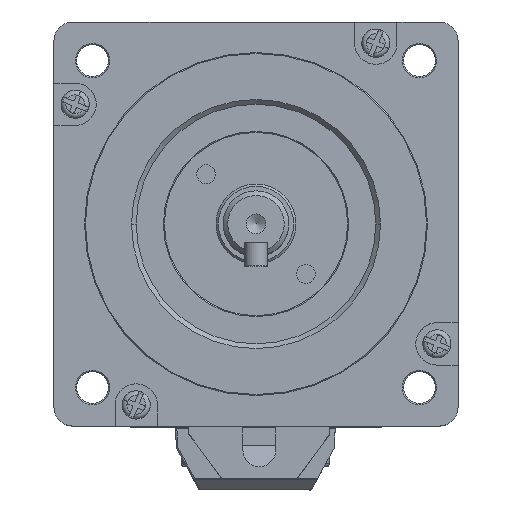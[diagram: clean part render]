
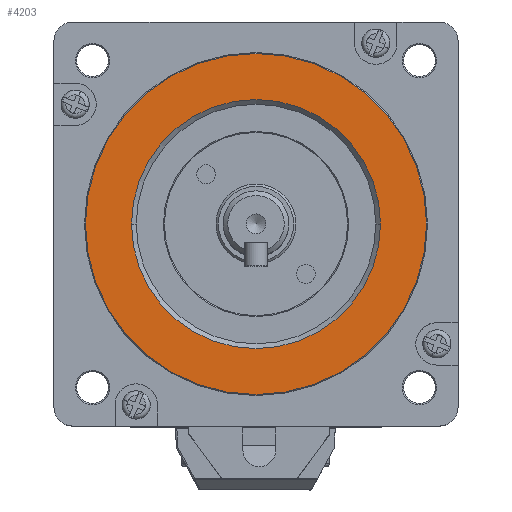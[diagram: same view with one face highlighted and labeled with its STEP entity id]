
A CAD part, top view. The second image highlights one B-rep face of the part: STEP entity #4203.
In plain terms, the highlighted planar face has unit normal (0, 0, 1).
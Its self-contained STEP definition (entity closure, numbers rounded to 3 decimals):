
#504=FACE_BOUND('',#6133,.T.);
#505=FACE_BOUND('',#6134,.T.);
#3511=PLANE('',#16799);
#4203=ADVANCED_FACE('',(#504,#505),#3511,.T.);
#6133=EDGE_LOOP('',(#9329));
#6134=EDGE_LOOP('',(#9330,#9331));
#9329=ORIENTED_EDGE('',*,*,#13886,.T.);
#9330=ORIENTED_EDGE('',*,*,#13716,.T.);
#9331=ORIENTED_EDGE('',*,*,#13887,.T.);
#11861=VERTEX_POINT('',#28247);
#11862=VERTEX_POINT('',#28249);
#11958=VERTEX_POINT('',#28583);
#13716=EDGE_CURVE('',#11862,#11861,#15392,.T.);
#13886=EDGE_CURVE('',#11958,#11958,#15458,.T.);
#13887=EDGE_CURVE('',#11861,#11862,#15459,.T.);
#15392=CIRCLE('',#16663,26.5);
#15458=CIRCLE('',#16797,36.3);
#15459=CIRCLE('',#16798,26.5);
#16663=AXIS2_PLACEMENT_3D('',#28248,#19934,#19935);
#16797=AXIS2_PLACEMENT_3D('',#28582,#20306,#20307);
#16798=AXIS2_PLACEMENT_3D('',#28584,#20308,#20309);
#16799=AXIS2_PLACEMENT_3D('',#28585,#20310,#20311);
#19934=DIRECTION('',(0.,0.,-1.));
#19935=DIRECTION('',(1.,0.,0.));
#20306=DIRECTION('',(0.,0.,1.));
#20307=DIRECTION('',(1.,0.,0.));
#20308=DIRECTION('',(0.,0.,-1.));
#20309=DIRECTION('',(1.,0.,0.));
#20310=DIRECTION('',(0.,0.,1.));
#20311=DIRECTION('',(1.,0.,0.));
#28247=CARTESIAN_POINT('',(-26.5,0.,0.));
#28248=CARTESIAN_POINT('',(0.,0.,
0.));
#28249=CARTESIAN_POINT('',(26.5,0.,0.));
#28582=CARTESIAN_POINT('',(0.,0.,
0.));
#28583=CARTESIAN_POINT('',(36.3,0.,0.));
#28584=CARTESIAN_POINT('',(0.,0.,
0.));
#28585=CARTESIAN_POINT('',(0.,0.,
0.));
